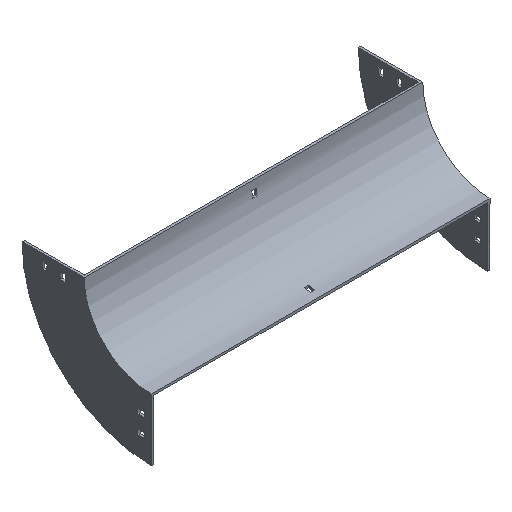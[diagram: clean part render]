
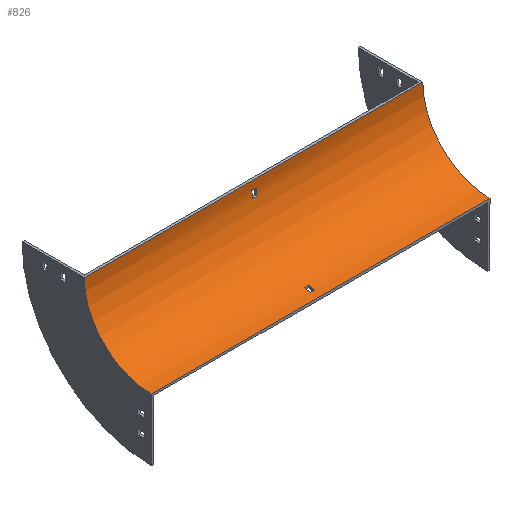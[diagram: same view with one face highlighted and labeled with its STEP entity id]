
A CAD part, isometric view. The second image highlights one B-rep face of the part: STEP entity #826.
In plain terms, the highlighted cylindrical face has radius 100 mm (diameter 200 mm), a partial arc.
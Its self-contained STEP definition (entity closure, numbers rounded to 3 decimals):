
#28 = EDGE_CURVE ( 'NONE', #1413, #199, #1015, .T. ) ;
#38 = AXIS2_PLACEMENT_3D ( 'NONE', #1634, #861, #601 ) ;
#48 = EDGE_CURVE ( 'NONE', #1539, #162, #918, .T. ) ;
#61 = DIRECTION ( 'NONE',  ( 1., 0., 0. ) ) ;
#81 = CARTESIAN_POINT ( 'NONE',  ( -252., -100., 0. ) ) ;
#89 = CARTESIAN_POINT ( 'NONE',  ( 3.25, -2.23, -21. ) ) ;
#91 = CARTESIAN_POINT ( 'NONE',  ( 252., 0., 0. ) ) ;
#105 = DIRECTION ( 'NONE',  ( -1., 0., 0. ) ) ;
#109 = CARTESIAN_POINT ( 'NONE',  ( 252., -100., 0. ) ) ;
#139 = CARTESIAN_POINT ( 'NONE',  ( -3.25, -100., 0. ) ) ;
#156 = CARTESIAN_POINT ( 'NONE',  ( 3.25, -0.723, -12. ) ) ;
#160 = ORIENTED_EDGE ( 'NONE', *, *, #388, .F. ) ;
#162 = VERTEX_POINT ( 'NONE', #682 ) ;
#199 = VERTEX_POINT ( 'NONE', #933 ) ;
#209 = VERTEX_POINT ( 'NONE', #156 ) ;
#215 = ORIENTED_EDGE ( 'NONE', *, *, #28, .F. ) ;
#226 = EDGE_LOOP ( 'NONE', ( #719, #1120, #1093, #1540 ) ) ;
#325 = VERTEX_POINT ( 'NONE', #602 ) ;
#328 = ORIENTED_EDGE ( 'NONE', *, *, #496, .F. ) ;
#375 = CARTESIAN_POINT ( 'NONE',  ( -3.25, -0.723, -12. ) ) ;
#382 = LINE ( 'NONE', #805, #1482 ) ;
#388 = EDGE_CURVE ( 'NONE', #325, #674, #874, .T. ) ;
#436 = VECTOR ( 'NONE', #907, 1000. ) ;
#449 = EDGE_CURVE ( 'NONE', #822, #199, #587, .T. ) ;
#459 = CARTESIAN_POINT ( 'NONE',  ( 3.25, -88., -99.277 ) ) ;
#481 = VECTOR ( 'NONE', #743, 1000. ) ;
#487 = EDGE_CURVE ( 'NONE', #1214, #685, #897, .T. ) ;
#496 = EDGE_CURVE ( 'NONE', #928, #1413, #1437, .T. ) ;
#519 = CIRCLE ( 'NONE', #1689, 100. ) ;
#563 = ORIENTED_EDGE ( 'NONE', *, *, #1584, .F. ) ;
#587 = CIRCLE ( 'NONE', #1078, 100. ) ;
#601 = DIRECTION ( 'NONE',  ( 0., 1., 0. ) ) ;
#602 = CARTESIAN_POINT ( 'NONE',  ( -3.25, -88., -99.277 ) ) ;
#620 = AXIS2_PLACEMENT_3D ( 'NONE', #1644, #1362, #1228 ) ;
#637 = CARTESIAN_POINT ( 'NONE',  ( 252., -79., -97.77 ) ) ;
#648 = CARTESIAN_POINT ( 'NONE',  ( 252., -100., -100. ) ) ;
#674 = VERTEX_POINT ( 'NONE', #459 ) ;
#682 = CARTESIAN_POINT ( 'NONE',  ( -3.25, -2.23, -21. ) ) ;
#685 = VERTEX_POINT ( 'NONE', #729 ) ;
#698 = CIRCLE ( 'NONE', #620, 100. ) ;
#719 = ORIENTED_EDGE ( 'NONE', *, *, #48, .T. ) ;
#729 = CARTESIAN_POINT ( 'NONE',  ( -3.25, -79., -97.77 ) ) ;
#743 = DIRECTION ( 'NONE',  ( 1., 0., 0. ) ) ;
#749 = FACE_BOUND ( 'NONE', #926, .T. ) ;
#791 = DIRECTION ( 'NONE',  ( 0., 0., 1. ) ) ;
#799 = ORIENTED_EDGE ( 'NONE', *, *, #1056, .F. ) ;
#805 = CARTESIAN_POINT ( 'NONE',  ( 252., 0., 0. ) ) ;
#822 = VERTEX_POINT ( 'NONE', #1507 ) ;
#825 = DIRECTION ( 'NONE',  ( 0., -1., 0. ) ) ;
#826 = ADVANCED_FACE ( 'NONE', ( #1380, #1247, #749 ), #1239, .F. ) ;
#835 = AXIS2_PLACEMENT_3D ( 'NONE', #109, #1033, #883 ) ;
#853 = EDGE_CURVE ( 'NONE', #209, #1539, #698, .T. ) ;
#861 = DIRECTION ( 'NONE',  ( -1., 0., 0. ) ) ;
#874 = LINE ( 'NONE', #1635, #481 ) ;
#875 = CARTESIAN_POINT ( 'NONE',  ( 3.25, -79., -97.77 ) ) ;
#878 = CIRCLE ( 'NONE', #38, 100. ) ;
#883 = DIRECTION ( 'NONE',  ( 0., 0., 1. ) ) ;
#897 = LINE ( 'NONE', #637, #1331 ) ;
#907 = DIRECTION ( 'NONE',  ( 1., 0., 0. ) ) ;
#913 = DIRECTION ( 'NONE',  ( 0., 0., 1. ) ) ;
#918 = LINE ( 'NONE', #1174, #1230 ) ;
#922 = DIRECTION ( 'NONE',  ( -1., 0., 0. ) ) ;
#926 = EDGE_LOOP ( 'NONE', ( #563, #943, #799, #160 ) ) ;
#928 = VERTEX_POINT ( 'NONE', #91 ) ;
#933 = CARTESIAN_POINT ( 'NONE',  ( -252., -100., -100. ) ) ;
#943 = ORIENTED_EDGE ( 'NONE', *, *, #487, .F. ) ;
#1005 = VERTEX_POINT ( 'NONE', #375 ) ;
#1015 = LINE ( 'NONE', #648, #1666 ) ;
#1030 = DIRECTION ( 'NONE',  ( -1., 0., 0. ) ) ;
#1033 = DIRECTION ( 'NONE',  ( -1., 0., 0. ) ) ;
#1056 = EDGE_CURVE ( 'NONE', #674, #1214, #1449, .T. ) ;
#1078 = AXIS2_PLACEMENT_3D ( 'NONE', #81, #1300, #913 ) ;
#1093 = ORIENTED_EDGE ( 'NONE', *, *, #1286, .T. ) ;
#1099 = DIRECTION ( 'NONE',  ( 0., 0., 1. ) ) ;
#1120 = ORIENTED_EDGE ( 'NONE', *, *, #1273, .T. ) ;
#1174 = CARTESIAN_POINT ( 'NONE',  ( 252., -2.23, -21. ) ) ;
#1204 = EDGE_LOOP ( 'NONE', ( #1403, #215, #328, #1288 ) ) ;
#1214 = VERTEX_POINT ( 'NONE', #875 ) ;
#1228 = DIRECTION ( 'NONE',  ( 0., 0., -1. ) ) ;
#1230 = VECTOR ( 'NONE', #1030, 1000. ) ;
#1239 = CYLINDRICAL_SURFACE ( 'NONE', #1439, 100. ) ;
#1247 = FACE_BOUND ( 'NONE', #226, .T. ) ;
#1257 = DIRECTION ( 'NONE',  ( -1., 0., 0. ) ) ;
#1273 = EDGE_CURVE ( 'NONE', #162, #1005, #519, .T. ) ;
#1285 = DIRECTION ( 'NONE',  ( -1., 0., 0. ) ) ;
#1286 = EDGE_CURVE ( 'NONE', #1005, #209, #1457, .T. ) ;
#1288 = ORIENTED_EDGE ( 'NONE', *, *, #1303, .T. ) ;
#1300 = DIRECTION ( 'NONE',  ( -1., 0., 0. ) ) ;
#1303 = EDGE_CURVE ( 'NONE', #928, #822, #382, .T. ) ;
#1309 = DIRECTION ( 'NONE',  ( 1., 0., 0. ) ) ;
#1317 = CARTESIAN_POINT ( 'NONE',  ( 252., -0.723, -12. ) ) ;
#1331 = VECTOR ( 'NONE', #1285, 1000. ) ;
#1362 = DIRECTION ( 'NONE',  ( -1., 0., 0. ) ) ;
#1380 = FACE_OUTER_BOUND ( 'NONE', #1204, .T. ) ;
#1403 = ORIENTED_EDGE ( 'NONE', *, *, #449, .T. ) ;
#1413 = VERTEX_POINT ( 'NONE', #1614 ) ;
#1437 = CIRCLE ( 'NONE', #835, 100. ) ;
#1439 = AXIS2_PLACEMENT_3D ( 'NONE', #1518, #1257, #1099 ) ;
#1449 = CIRCLE ( 'NONE', #1510, 100. ) ;
#1457 = LINE ( 'NONE', #1317, #436 ) ;
#1481 = CARTESIAN_POINT ( 'NONE',  ( 3.25, -100., 0. ) ) ;
#1482 = VECTOR ( 'NONE', #922, 1000. ) ;
#1507 = CARTESIAN_POINT ( 'NONE',  ( -252., 0., 0. ) ) ;
#1510 = AXIS2_PLACEMENT_3D ( 'NONE', #1481, #61, #825 ) ;
#1518 = CARTESIAN_POINT ( 'NONE',  ( 252., -100., 0. ) ) ;
#1539 = VERTEX_POINT ( 'NONE', #89 ) ;
#1540 = ORIENTED_EDGE ( 'NONE', *, *, #853, .T. ) ;
#1584 = EDGE_CURVE ( 'NONE', #685, #325, #878, .T. ) ;
#1614 = CARTESIAN_POINT ( 'NONE',  ( 252., -100., -100. ) ) ;
#1634 = CARTESIAN_POINT ( 'NONE',  ( -3.25, -100., 0. ) ) ;
#1635 = CARTESIAN_POINT ( 'NONE',  ( 252., -88., -99.277 ) ) ;
#1644 = CARTESIAN_POINT ( 'NONE',  ( 3.25, -100., 0. ) ) ;
#1666 = VECTOR ( 'NONE', #105, 1000. ) ;
#1689 = AXIS2_PLACEMENT_3D ( 'NONE', #139, #1309, #791 ) ;
